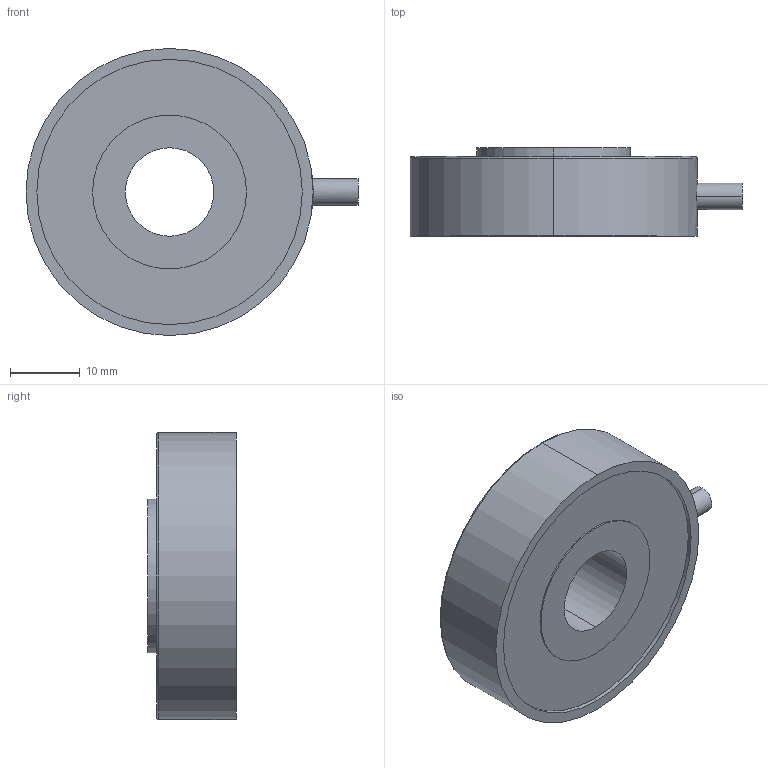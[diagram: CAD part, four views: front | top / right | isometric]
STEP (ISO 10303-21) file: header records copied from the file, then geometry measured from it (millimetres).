
FILE_DESCRIPTION (( 'STEP AP214' ), '1' );
FILE_NAME ('FINAL ASBY SS1628-500LB.STEP', '2024-08-12T14:50:40', ( '' ), ( '' ), 'SwSTEP 2.0', 'SolidWorks 2008', '' );
FILE_SCHEMA (( 'AUTOMOTIVE_DESIGN' ));
Length unit declared in the file: inch
Products named in the file (1): FINAL ASBY SS1628-500LB
Bounding box: 47.66 x 12.7 x 41.22 mm (x, y, z)
Volume: 13664.4 mm3; surface area: 4624 mm2
Topology: 1 solids, 1 shells, 20 faces, 40 edges, 26 vertices
Faces by surface type: cylinder 12, plane 6, torus 2
Entity records: 615 total; most frequent: CARTESIAN_POINT 141, DIRECTION 106, ORIENTED_EDGE 80, AXIS2_PLACEMENT_3D 47, EDGE_CURVE 40, VERTEX_POINT 26, EDGE_LOOP 26, CIRCLE 26
